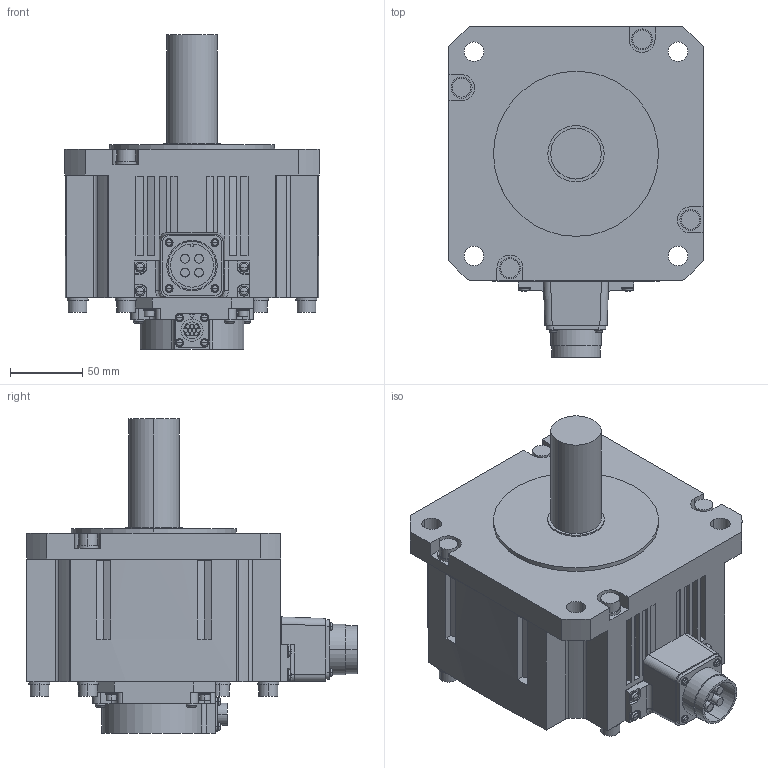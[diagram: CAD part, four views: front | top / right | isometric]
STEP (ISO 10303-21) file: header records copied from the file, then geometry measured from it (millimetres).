
FILE_DESCRIPTION((''),'2;1');
FILE_NAME('HK-ST202W_','2019-01-17T',('XE90682'),(''),'CREO PARAMETRIC BY PTC INC, 2016380','CREO PARAMETRIC BY PTC INC, 2016380','');
FILE_SCHEMA(('CONFIG_CONTROL_DESIGN'));
Length unit declared in the file: millimetre
Products named in the file (1): HK-ST202W_
Bounding box: 176 x 228.8 x 217.5 mm (x, y, z)
Volume: 3203456.8 mm3; surface area: 180961 mm2
Topology: 1 solids, 1 shells, 523 faces, 1271 edges, 804 vertices
Faces by surface type: plane 250, cylinder 203, torus 32, sphere 32, cone 4, bspline 2
Entity records: 15761 total; most frequent: CARTESIAN_POINT 3134, DIRECTION 2795, ORIENTED_EDGE 2478, EDGE_CURVE 1239, AXIS2_PLACEMENT_3D 1047, VERTEX_POINT 804, VECTOR 701, LINE 701
